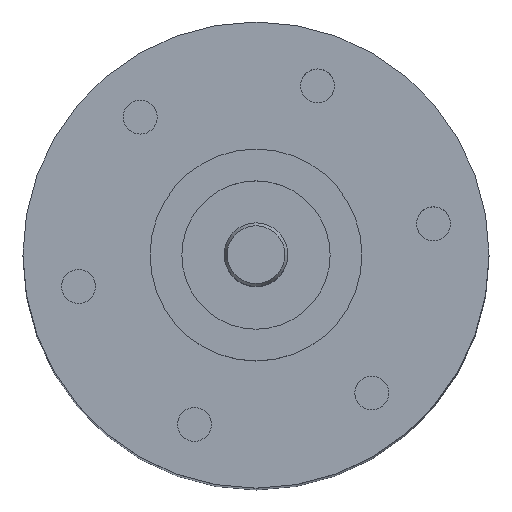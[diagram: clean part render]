
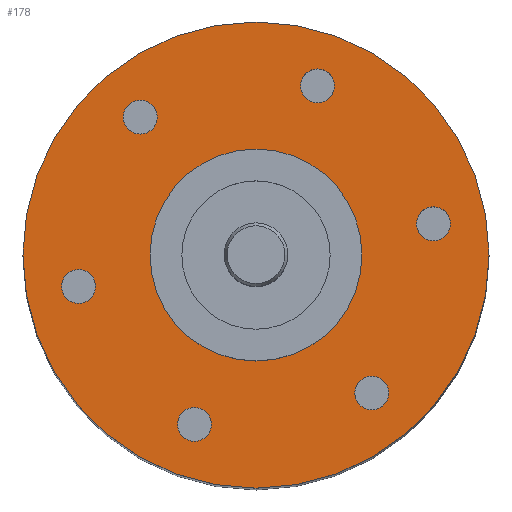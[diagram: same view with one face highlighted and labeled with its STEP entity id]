
A CAD part, top view. The second image highlights one B-rep face of the part: STEP entity #178.
In plain terms, the highlighted planar face has unit normal (0, 0, 1).
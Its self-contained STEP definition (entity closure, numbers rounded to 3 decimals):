
#151=PLANE('',#780);
#178=ADVANCED_FACE('',(#254,#255,#256,#257,#258,#259,#260,#261),#151,.T.);
#254=FACE_BOUND('',#306,.T.);
#255=FACE_BOUND('',#307,.T.);
#256=FACE_BOUND('',#308,.T.);
#257=FACE_BOUND('',#309,.T.);
#258=FACE_BOUND('',#310,.T.);
#259=FACE_BOUND('',#311,.T.);
#260=FACE_BOUND('',#312,.T.);
#261=FACE_BOUND('',#313,.T.);
#306=EDGE_LOOP('',(#386));
#307=EDGE_LOOP('',(#387));
#308=EDGE_LOOP('',(#388));
#309=EDGE_LOOP('',(#389));
#310=EDGE_LOOP('',(#390));
#311=EDGE_LOOP('',(#391));
#312=EDGE_LOOP('',(#392));
#313=EDGE_LOOP('',(#393));
#386=ORIENTED_EDGE('',*,*,#633,.T.);
#387=ORIENTED_EDGE('',*,*,#634,.T.);
#388=ORIENTED_EDGE('',*,*,#635,.T.);
#389=ORIENTED_EDGE('',*,*,#636,.T.);
#390=ORIENTED_EDGE('',*,*,#637,.T.);
#391=ORIENTED_EDGE('',*,*,#638,.T.);
#392=ORIENTED_EDGE('',*,*,#639,.F.);
#393=ORIENTED_EDGE('',*,*,#631,.F.);
#562=VERTEX_POINT('',#1114);
#564=VERTEX_POINT('',#1119);
#565=VERTEX_POINT('',#1121);
#566=VERTEX_POINT('',#1123);
#567=VERTEX_POINT('',#1125);
#568=VERTEX_POINT('',#1127);
#569=VERTEX_POINT('',#1129);
#570=VERTEX_POINT('',#1131);
#631=EDGE_CURVE('',#562,#562,#720,.T.);
#633=EDGE_CURVE('',#564,#564,#722,.T.);
#634=EDGE_CURVE('',#565,#565,#723,.T.);
#635=EDGE_CURVE('',#566,#566,#724,.T.);
#636=EDGE_CURVE('',#567,#567,#725,.T.);
#637=EDGE_CURVE('',#568,#568,#726,.T.);
#638=EDGE_CURVE('',#569,#569,#727,.T.);
#639=EDGE_CURVE('',#570,#570,#728,.T.);
#720=CIRCLE('',#770,11.);
#722=CIRCLE('',#773,0.8);
#723=CIRCLE('',#774,0.8);
#724=CIRCLE('',#775,0.8);
#725=CIRCLE('',#776,0.8);
#726=CIRCLE('',#777,0.8);
#727=CIRCLE('',#778,0.8);
#728=CIRCLE('',#779,5.);
#770=AXIS2_PLACEMENT_3D('',#1113,#872,#873);
#773=AXIS2_PLACEMENT_3D('',#1118,#878,#879);
#774=AXIS2_PLACEMENT_3D('',#1120,#880,#881);
#775=AXIS2_PLACEMENT_3D('',#1122,#882,#883);
#776=AXIS2_PLACEMENT_3D('',#1124,#884,#885);
#777=AXIS2_PLACEMENT_3D('',#1126,#886,#887);
#778=AXIS2_PLACEMENT_3D('',#1128,#888,#889);
#779=AXIS2_PLACEMENT_3D('',#1130,#890,#891);
#780=AXIS2_PLACEMENT_3D('',#1132,#892,#893);
#872=DIRECTION('',(0.,0.,-1.));
#873=DIRECTION('',(-0.94,0.342,0.));
#878=DIRECTION('',(0.,0.,-1.));
#879=DIRECTION('',(-0.174,0.985,0.));
#880=DIRECTION('',(0.,0.,-1.));
#881=DIRECTION('',(0.766,0.643,0.));
#882=DIRECTION('',(0.,0.,-1.));
#883=DIRECTION('',(0.94,-0.342,0.));
#884=DIRECTION('',(0.,0.,-1.));
#885=DIRECTION('',(0.174,-0.985,0.));
#886=DIRECTION('',(0.,0.,-1.));
#887=DIRECTION('',(-0.766,-0.643,0.));
#888=DIRECTION('',(0.,0.,-1.));
#889=DIRECTION('',(-0.94,0.342,0.));
#890=DIRECTION('',(0.,0.,1.));
#891=DIRECTION('',(0.94,-0.342,0.));
#892=DIRECTION('',(0.,0.,1.));
#893=DIRECTION('',(0.94,-0.342,0.));
#1113=CARTESIAN_POINT('',(0.,0.,0.));
#1114=CARTESIAN_POINT('',(-10.337,3.762,0.));
#1118=CARTESIAN_POINT('',(8.371,1.476,0.));
#1119=CARTESIAN_POINT('',(8.232,2.264,0.));
#1120=CARTESIAN_POINT('',(5.464,-6.511,0.));
#1121=CARTESIAN_POINT('',(6.077,-5.997,0.));
#1122=CARTESIAN_POINT('',(-2.907,-7.987,0.));
#1123=CARTESIAN_POINT('',(-2.155,-8.261,0.));
#1124=CARTESIAN_POINT('',(-8.371,-1.476,0.));
#1125=CARTESIAN_POINT('',(-8.232,-2.264,0.));
#1126=CARTESIAN_POINT('',(-5.464,6.511,0.));
#1127=CARTESIAN_POINT('',(-6.077,5.997,0.));
#1128=CARTESIAN_POINT('',(2.907,7.987,0.));
#1129=CARTESIAN_POINT('',(2.155,8.261,0.));
#1130=CARTESIAN_POINT('',(0.,0.,0.));
#1131=CARTESIAN_POINT('',(4.698,-1.71,0.));
#1132=CARTESIAN_POINT('',(0.,0.,0.));
